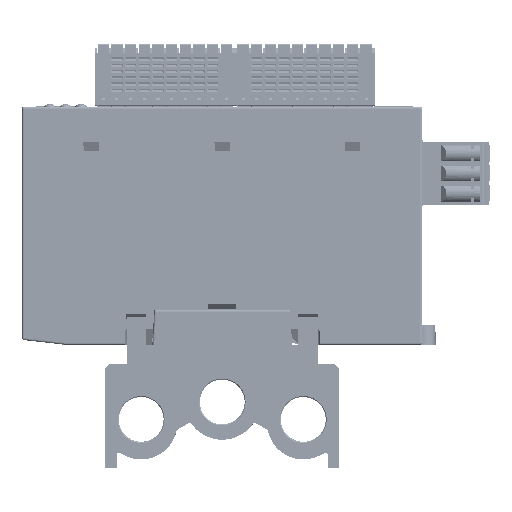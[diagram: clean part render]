
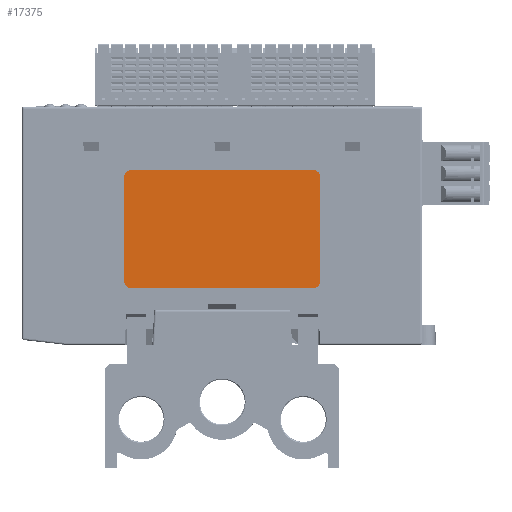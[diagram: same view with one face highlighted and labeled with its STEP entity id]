
A CAD part, front view. The second image highlights one B-rep face of the part: STEP entity #17375.
In plain terms, the highlighted planar face has unit normal (0, -1, 0).
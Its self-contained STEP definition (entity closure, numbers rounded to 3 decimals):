
#7752=FACE_OUTER_BOUND('',#41392,.T.);
#17375=ADVANCED_FACE('',(#7752),#27113,.F.);
#27113=PLANE('',#184813);
#33905=CIRCLE('',#184809,1.8);
#33906=CIRCLE('',#184810,1.8);
#33907=CIRCLE('',#184811,1.8);
#33908=CIRCLE('',#184812,1.8);
#41392=EDGE_LOOP('',(#55517,#55518,#55519,#55520,#55521,#55522,#55523,#55524));
#55517=ORIENTED_EDGE('',*,*,#123509,.F.);
#55518=ORIENTED_EDGE('',*,*,#123514,.T.);
#55519=ORIENTED_EDGE('',*,*,#123515,.F.);
#55520=ORIENTED_EDGE('',*,*,#123516,.T.);
#55521=ORIENTED_EDGE('',*,*,#123511,.F.);
#55522=ORIENTED_EDGE('',*,*,#123517,.T.);
#55523=ORIENTED_EDGE('',*,*,#123505,.F.);
#55524=ORIENTED_EDGE('',*,*,#123518,.T.);
#105885=VERTEX_POINT('',#258772);
#105886=VERTEX_POINT('',#258773);
#105887=VERTEX_POINT('',#258778);
#105888=VERTEX_POINT('',#258780);
#105889=VERTEX_POINT('',#258784);
#105890=VERTEX_POINT('',#258785);
#105891=VERTEX_POINT('',#258790);
#105892=VERTEX_POINT('',#258792);
#123505=EDGE_CURVE('',#105885,#105886,#148434,.T.);
#123509=EDGE_CURVE('',#105887,#105888,#148438,.T.);
#123511=EDGE_CURVE('',#105889,#105890,#148440,.T.);
#123514=EDGE_CURVE('',#105887,#105891,#33905,.T.);
#123515=EDGE_CURVE('',#105892,#105891,#148443,.T.);
#123516=EDGE_CURVE('',#105892,#105890,#33906,.T.);
#123517=EDGE_CURVE('',#105889,#105886,#33907,.T.);
#123518=EDGE_CURVE('',#105885,#105888,#33908,.T.);
#148434=LINE('',#258771,#166587);
#148438=LINE('',#258779,#166591);
#148440=LINE('',#258783,#166593);
#148443=LINE('',#258791,#166596);
#166587=VECTOR('',#203123,1.);
#166591=VECTOR('',#203129,1.);
#166593=VECTOR('',#203133,1.);
#166596=VECTOR('',#203140,1.);
#184809=AXIS2_PLACEMENT_3D('',#258789,#203138,#203139);
#184810=AXIS2_PLACEMENT_3D('',#258793,#203141,#203142);
#184811=AXIS2_PLACEMENT_3D('',#258794,#203143,#203144);
#184812=AXIS2_PLACEMENT_3D('',#258795,#203145,#203146);
#184813=AXIS2_PLACEMENT_3D('',#258796,#203147,#203148);
#203123=DIRECTION('',(0.,0.,-1.));
#203129=DIRECTION('',(1.,0.,0.));
#203133=DIRECTION('',(-1.,0.,0.));
#203138=DIRECTION('',(0.,-1.,0.));
#203139=DIRECTION('',(0.,0.,1.));
#203140=DIRECTION('',(0.,0.,1.));
#203141=DIRECTION('',(0.,-1.,0.));
#203142=DIRECTION('',(0.,0.,-1.));
#203143=DIRECTION('',(0.,-1.,0.));
#203144=DIRECTION('',(0.,0.,-1.));
#203145=DIRECTION('',(0.,-1.,0.));
#203146=DIRECTION('',(0.,0.,-1.));
#203147=DIRECTION('',(0.,1.,0.));
#203148=DIRECTION('',(0.,0.,-1.));
#258771=CARTESIAN_POINT('',(525.15,2297.36,34.634));
#258772=CARTESIAN_POINT('',(525.15,2297.36,47.934));
#258773=CARTESIAN_POINT('',(525.15,2297.36,21.334));
#258778=CARTESIAN_POINT('',(476.75,2297.36,49.734));
#258779=CARTESIAN_POINT('',(500.05,2297.36,49.734));
#258780=CARTESIAN_POINT('',(523.35,2297.36,49.734));
#258783=CARTESIAN_POINT('',(475.05,2297.36,19.534));
#258784=CARTESIAN_POINT('',(523.35,2297.36,19.534));
#258785=CARTESIAN_POINT('',(476.75,2297.36,19.534));
#258789=CARTESIAN_POINT('',(476.75,2297.36,47.934));
#258790=CARTESIAN_POINT('',(474.95,2297.36,47.934));
#258791=CARTESIAN_POINT('',(474.95,2297.36,34.634));
#258792=CARTESIAN_POINT('',(474.95,2297.36,21.334));
#258793=CARTESIAN_POINT('',(476.75,2297.36,21.334));
#258794=CARTESIAN_POINT('',(523.35,2297.36,21.334));
#258795=CARTESIAN_POINT('',(523.35,2297.36,47.934));
#258796=CARTESIAN_POINT('',(500.041,2297.36,23.341));
